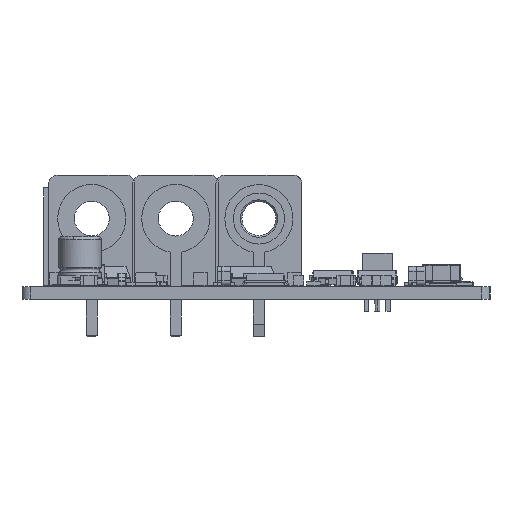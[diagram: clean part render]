
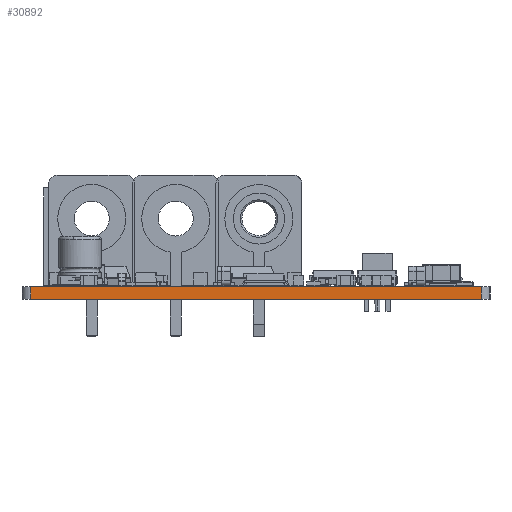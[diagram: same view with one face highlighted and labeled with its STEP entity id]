
A CAD part, left-side view. The second image highlights one B-rep face of the part: STEP entity #30892.
In plain terms, the highlighted planar face has unit normal (-1, 0, 0).
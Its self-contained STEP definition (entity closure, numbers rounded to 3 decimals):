
#28957 = VERTEX_POINT('',#28958);
#28958 = CARTESIAN_POINT('',(-42.5,26.5,0.));
#28965 = EDGE_CURVE('',#28966,#28957,#28968,.T.);
#28966 = VERTEX_POINT('',#28967);
#28967 = CARTESIAN_POINT('',(-42.5,-26.5,0.));
#28968 = LINE('',#28969,#28970);
#28969 = CARTESIAN_POINT('',(-42.5,-26.5,0.));
#28970 = VECTOR('',#28971,1.);
#28971 = DIRECTION('',(0.,1.,0.));
#29911 = VERTEX_POINT('',#29912);
#29912 = CARTESIAN_POINT('',(-42.5,26.5,1.51));
#29919 = EDGE_CURVE('',#29920,#29911,#29922,.T.);
#29920 = VERTEX_POINT('',#29921);
#29921 = CARTESIAN_POINT('',(-42.5,-26.5,1.51));
#29922 = LINE('',#29923,#29924);
#29923 = CARTESIAN_POINT('',(-42.5,-26.5,1.51));
#29924 = VECTOR('',#29925,1.);
#29925 = DIRECTION('',(0.,1.,0.));
#30862 = EDGE_CURVE('',#28957,#29911,#30863,.T.);
#30863 = LINE('',#30864,#30865);
#30864 = CARTESIAN_POINT('',(-42.5,26.5,0.));
#30865 = VECTOR('',#30866,1.);
#30866 = DIRECTION('',(0.,0.,1.));
#30892 = ADVANCED_FACE('',(#30893),#30904,.T.);
#30893 = FACE_BOUND('',#30894,.T.);
#30894 = EDGE_LOOP('',(#30895,#30901,#30902,#30903));
#30895 = ORIENTED_EDGE('',*,*,#30896,.T.);
#30896 = EDGE_CURVE('',#28966,#29920,#30897,.T.);
#30897 = LINE('',#30898,#30899);
#30898 = CARTESIAN_POINT('',(-42.5,-26.5,0.));
#30899 = VECTOR('',#30900,1.);
#30900 = DIRECTION('',(0.,0.,1.));
#30901 = ORIENTED_EDGE('',*,*,#29919,.T.);
#30902 = ORIENTED_EDGE('',*,*,#30862,.F.);
#30903 = ORIENTED_EDGE('',*,*,#28965,.F.);
#30904 = PLANE('',#30905);
#30905 = AXIS2_PLACEMENT_3D('',#30906,#30907,#30908);
#30906 = CARTESIAN_POINT('',(-42.5,-26.5,0.));
#30907 = DIRECTION('',(-1.,0.,0.));
#30908 = DIRECTION('',(0.,1.,0.));
